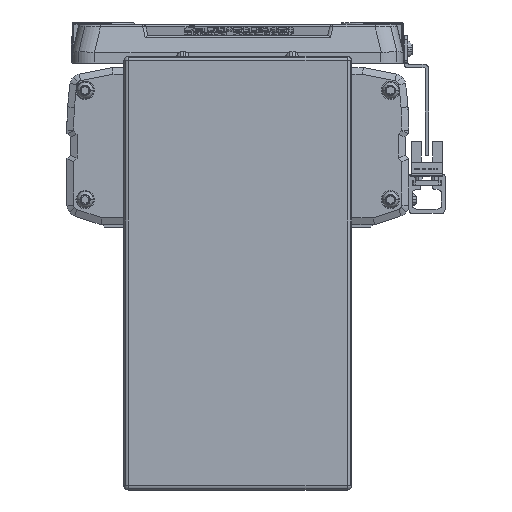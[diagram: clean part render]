
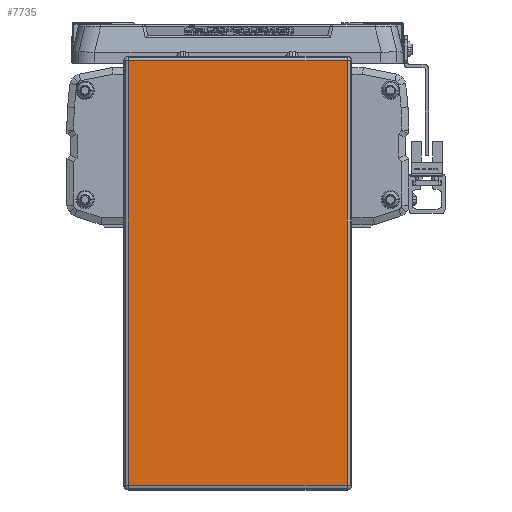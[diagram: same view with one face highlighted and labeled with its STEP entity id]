
A CAD part, left-side view. The second image highlights one B-rep face of the part: STEP entity #7735.
In plain terms, the highlighted planar face has unit normal (-1, 0, 0).
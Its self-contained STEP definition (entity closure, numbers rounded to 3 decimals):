
#7735=ADVANCED_FACE('',(#15684),#15685,.T.);
#15684=FACE_OUTER_BOUND('',#25131,.T.);
#15685=PLANE('',#25132);
#25131=EDGE_LOOP('',(#47021,#47022,#47023,#47024));
#25132=AXIS2_PLACEMENT_3D('',#47025,#47026,#47027);
#47021=ORIENTED_EDGE('',*,*,#54313,.F.);
#47022=ORIENTED_EDGE('',*,*,#55381,.F.);
#47023=ORIENTED_EDGE('',*,*,#57315,.F.);
#47024=ORIENTED_EDGE('',*,*,#50988,.F.);
#47025=CARTESIAN_POINT('',(-45.,0.,-64.2));
#47026=DIRECTION('',(-1.0,0.,0.));
#47027=DIRECTION('',(0.,1.0,0.));
#50988=EDGE_CURVE('',#61580,#58026,#61582,.T.);
#54313=EDGE_CURVE('',#66757,#61580,#66759,.T.);
#55381=EDGE_CURVE('',#68171,#66757,#68173,.T.);
#57315=EDGE_CURVE('',#58026,#68171,#70456,.T.);
#58026=VERTEX_POINT('',#71248);
#61580=VERTEX_POINT('',#76344);
#61582=LINE('',#76346,#76347);
#66757=VERTEX_POINT('',#83515);
#66759=LINE('',#83517,#83518);
#68171=VERTEX_POINT('',#85502);
#68173=LINE('',#85504,#85505);
#70456=LINE('',#88667,#88668);
#71248=CARTESIAN_POINT('',(-45.,-48.,-157.4));
#76344=CARTESIAN_POINT('',(-45.,-48.,29.));
#76346=CARTESIAN_POINT('',(-45.,-48.,-64.2));
#76347=VECTOR('',#92320,10.0);
#83515=CARTESIAN_POINT('',(-45.,48.,29.));
#83517=CARTESIAN_POINT('',(-45.,0.,29.));
#83518=VECTOR('',#96700,10.0);
#85502=CARTESIAN_POINT('',(-45.,48.,-157.4));
#85504=CARTESIAN_POINT('',(-45.,48.,-64.2));
#85505=VECTOR('',#98025,10.0);
#88667=CARTESIAN_POINT('',(-45.,0.,-157.4));
#88668=VECTOR('',#99979,10.0);
#92320=DIRECTION('',(0.,0.,-1.0));
#96700=DIRECTION('',(0.0,-1.0,0.));
#98025=DIRECTION('',(0.,0.,1.0));
#99979=DIRECTION('',(0.0,1.0,0.));
